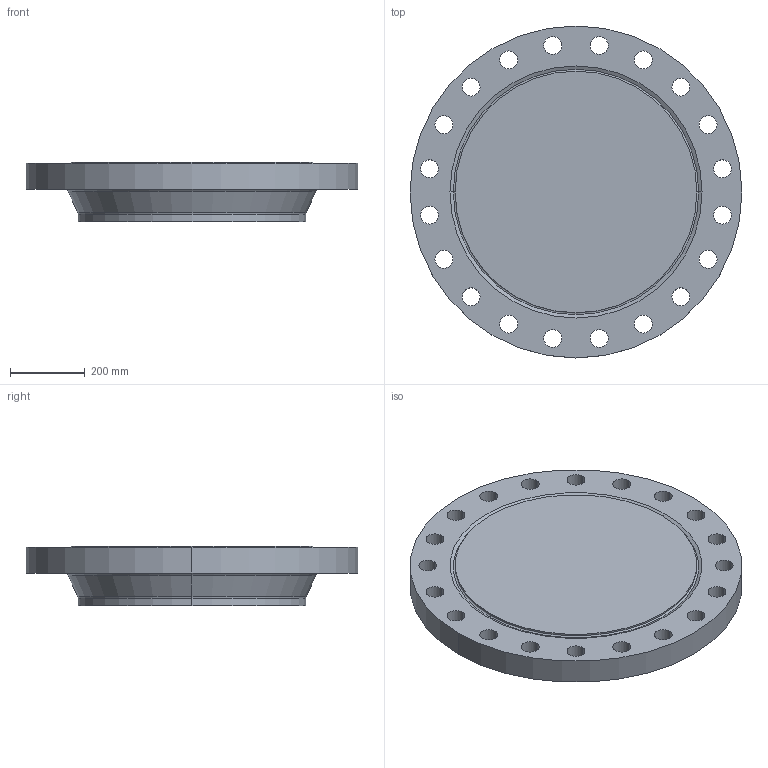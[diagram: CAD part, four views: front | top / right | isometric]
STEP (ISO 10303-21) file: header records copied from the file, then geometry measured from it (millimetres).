
FILE_DESCRIPTION (( 'STEP AP214' ), '1' );
FILE_NAME ('PN40 DN600 Type 21(ii) - Type H Face.STEP', '2018-12-29T04:36:36', ( '' ), ( '' ), 'SwSTEP 2.0', 'SolidWorks 2019', '' );
FILE_SCHEMA (( 'AUTOMOTIVE_DESIGN' ));
Length unit declared in the file: millimetre
Products named in the file (1): PN40 DN600 Type 21(ii) - Type H Face
Bounding box: 890 x 890 x 160 mm (x, y, z)
Volume: 69031584 mm3; surface area: 1712217.8 mm2
Topology: 1 solids, 1 shells, 60 faces, 158 edges, 102 vertices
Faces by surface type: cylinder 46, torus 6, cone 4, plane 4
Entity records: 2024 total; most frequent: DIRECTION 388, CARTESIAN_POINT 321, ORIENTED_EDGE 316, AXIS2_PLACEMENT_3D 169, EDGE_CURVE 158, CIRCLE 108, VERTEX_POINT 102, EDGE_LOOP 102
